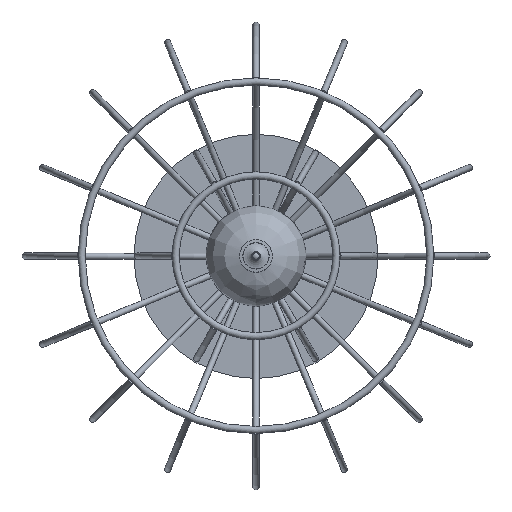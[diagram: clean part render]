
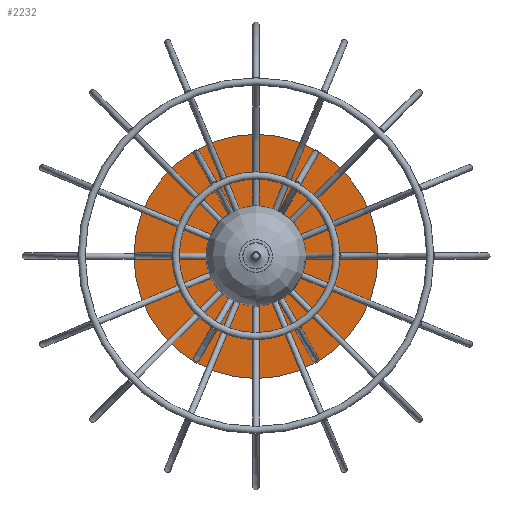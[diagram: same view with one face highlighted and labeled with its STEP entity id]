
A CAD part, top view. The second image highlights one B-rep face of the part: STEP entity #2232.
In plain terms, the highlighted planar face has unit normal (0, 0, 1).
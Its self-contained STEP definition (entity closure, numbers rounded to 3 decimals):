
#208=PLANE('',#2685);
#516=FACE_OUTER_BOUND('',#699,.T.);
#699=EDGE_LOOP('',(#1996));
#933=CIRCLE('',#2683,60.);
#1123=VERTEX_POINT('',#4583);
#1414=EDGE_CURVE('',#1123,#1123,#933,.T.);
#1996=ORIENTED_EDGE('',*,*,#1414,.F.);
#2232=ADVANCED_FACE('',(#516),#208,.F.);
#2683=AXIS2_PLACEMENT_3D('',#4585,#3540,#3541);
#2685=AXIS2_PLACEMENT_3D('',#4587,#3544,#3545);
#3540=DIRECTION('center_axis',(0.,0.,-1.));
#3541=DIRECTION('ref_axis',(1.,0.,0.));
#3544=DIRECTION('center_axis',(0.,0.,-1.));
#3545=DIRECTION('ref_axis',(1.,0.,0.));
#4583=CARTESIAN_POINT('',(-60.,0.,-0.05));
#4585=CARTESIAN_POINT('Origin',(0.,0.,-0.05));
#4587=CARTESIAN_POINT('Origin',(0.,0.,-0.05));
